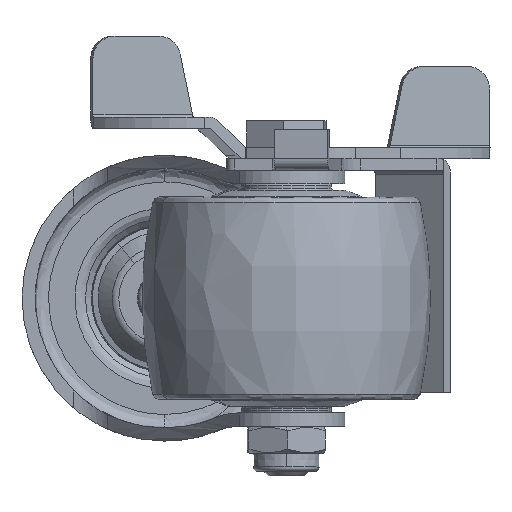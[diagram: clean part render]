
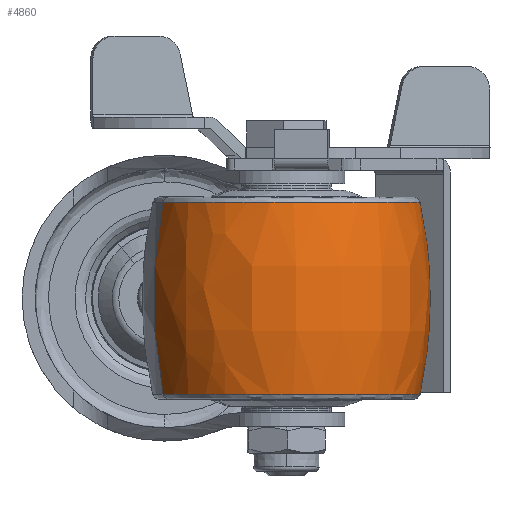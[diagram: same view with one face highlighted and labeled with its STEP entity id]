
A CAD part, front view. The second image highlights one B-rep face of the part: STEP entity #4860.
In plain terms, the highlighted free-form (B-spline) face has degree [3, 3] with [4, 4] control points.
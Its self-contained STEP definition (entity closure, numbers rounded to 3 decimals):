
#21 = VERTEX_POINT ( 'NONE', #16861 ) ;
#310 = EDGE_CURVE ( 'NONE', #31530, #19957, #25867, .T. ) ;
#3783 = CARTESIAN_POINT ( 'NONE',  ( 7.209, 0., 32.758 ) ) ;
#4860 = ADVANCED_FACE ( 'NONE', ( #35495 ), #29614, .T. ) ;
#5765 = DIRECTION ( 'NONE',  ( 0., 0., 1. ) ) ;
#7715 = CARTESIAN_POINT ( 'NONE',  ( -7.209, -65.515, 32.758 ) ) ;
#8249 = CARTESIAN_POINT ( 'NONE',  ( 7.209, 0., -32.758 ) ) ;
#9764 = DIRECTION ( 'NONE',  ( -1., 0., 0. ) ) ;
#10530 = CARTESIAN_POINT ( 'NONE',  ( 21.312, 0., 0. ) ) ;
#10739 = AXIS2_PLACEMENT_3D ( 'NONE', #46918, #38512, #5765 ) ;
#11676 = CARTESIAN_POINT ( 'NONE',  ( 7.209, -65.515, -32.758 ) ) ;
#11943 = CARTESIAN_POINT ( 'NONE',  ( 21.312, 0., 29.76 ) ) ;
#12219 = CARTESIAN_POINT ( 'NONE',  ( -21.312, -59.52, 29.76 ) ) ;
#12326 = CARTESIAN_POINT ( 'NONE',  ( 0., 0., 70.5 ) ) ;
#12469 = CARTESIAN_POINT ( 'NONE',  ( -7.209, -65.515, -32.758 ) ) ;
#14463 = EDGE_CURVE ( 'NONE', #50657, #21, #33316, .T. ) ;
#15601 = CARTESIAN_POINT ( 'NONE',  ( -7.209, 0., 32.758 ) ) ;
#16861 = CARTESIAN_POINT ( 'NONE',  ( -21.312, 0., -29.76 ) ) ;
#16891 = ORIENTED_EDGE ( 'NONE', *, *, #44656, .F. ) ;
#19957 = VERTEX_POINT ( 'NONE', #46240 ) ;
#20381 = DIRECTION ( 'NONE',  ( 0., 1., 0. ) ) ;
#20651 = AXIS2_PLACEMENT_3D ( 'NONE', #12326, #32724, #28301 ) ;
#20835 = CIRCLE ( 'NONE', #25846, 102.5 ) ;
#25846 = AXIS2_PLACEMENT_3D ( 'NONE', #48669, #20381, #40778 ) ;
#25867 = CIRCLE ( 'NONE', #32579, 29.76 ) ;
#28189 = CARTESIAN_POINT ( 'NONE',  ( -7.209, 0., -32.758 ) ) ;
#28301 = DIRECTION ( 'NONE',  ( 0., 0., -1. ) ) ;
#29614 =( BOUNDED_SURFACE ( )  B_SPLINE_SURFACE ( 3, 3, ( 
 ( #32100, #48093, #12219, #51510 ),
 ( #28189, #12469, #7715, #15601 ),
 ( #8249, #11676, #39677, #3783 ),
 ( #31832, #40202, #47829, #11943 ) ),
 .UNSPECIFIED., .F., .F., .T. ) 
 B_SPLINE_SURFACE_WITH_KNOTS ( ( 4, 4 ),
 ( 4, 4 ),
 ( 0., 1. ),
 ( 0., 1. ),
 .UNSPECIFIED. ) 
 GEOMETRIC_REPRESENTATION_ITEM ( )  RATIONAL_B_SPLINE_SURFACE ( (
 ( 1., 0.333, 0.333, 1.),
 ( 0.985, 0.328, 0.328, 0.985),
 ( 0.985, 0.328, 0.328, 0.985),
 ( 1., 0.333, 0.333, 1.) ) ) 
 REPRESENTATION_ITEM ( '' )  SURFACE ( )  );
#29872 = ORIENTED_EDGE ( 'NONE', *, *, #14463, .T. ) ;
#30638 = CARTESIAN_POINT ( 'NONE',  ( -21.312, 0., 29.76 ) ) ;
#31530 = VERTEX_POINT ( 'NONE', #43162 ) ;
#31832 = CARTESIAN_POINT ( 'NONE',  ( 21.312, 0., -29.76 ) ) ;
#32100 = CARTESIAN_POINT ( 'NONE',  ( -21.312, 0., -29.76 ) ) ;
#32579 = AXIS2_PLACEMENT_3D ( 'NONE', #10530, #9764, #38526 ) ;
#32724 = DIRECTION ( 'NONE',  ( 0., -1., 0. ) ) ;
#32961 = ORIENTED_EDGE ( 'NONE', *, *, #42928, .T. ) ;
#33316 = CIRCLE ( 'NONE', #10739, 29.76 ) ;
#35495 = FACE_OUTER_BOUND ( 'NONE', #47987, .T. ) ;
#38512 = DIRECTION ( 'NONE',  ( 1., 0., 0. ) ) ;
#38526 = DIRECTION ( 'NONE',  ( 0., 0., 1. ) ) ;
#39677 = CARTESIAN_POINT ( 'NONE',  ( 7.209, -65.515, 32.758 ) ) ;
#40202 = CARTESIAN_POINT ( 'NONE',  ( 21.312, -59.52, -29.76 ) ) ;
#40778 = DIRECTION ( 'NONE',  ( 0., 0., 1. ) ) ;
#41529 = CIRCLE ( 'NONE', #20651, 102.5 ) ;
#42928 = EDGE_CURVE ( 'NONE', #21, #31530, #41529, .T. ) ;
#43162 = CARTESIAN_POINT ( 'NONE',  ( 21.312, 0., -29.76 ) ) ;
#44656 = EDGE_CURVE ( 'NONE', #50657, #19957, #20835, .T. ) ;
#46240 = CARTESIAN_POINT ( 'NONE',  ( 21.312, 0., 29.76 ) ) ;
#46918 = CARTESIAN_POINT ( 'NONE',  ( -21.312, 0., 0. ) ) ;
#47829 = CARTESIAN_POINT ( 'NONE',  ( 21.312, -59.52, 29.76 ) ) ;
#47987 = EDGE_LOOP ( 'NONE', ( #29872, #32961, #48565, #16891 ) ) ;
#48093 = CARTESIAN_POINT ( 'NONE',  ( -21.312, -59.52, -29.76 ) ) ;
#48565 = ORIENTED_EDGE ( 'NONE', *, *, #310, .T. ) ;
#48669 = CARTESIAN_POINT ( 'NONE',  ( 0., 0., -70.5 ) ) ;
#50657 = VERTEX_POINT ( 'NONE', #30638 ) ;
#51510 = CARTESIAN_POINT ( 'NONE',  ( -21.312, 0., 29.76 ) ) ;
